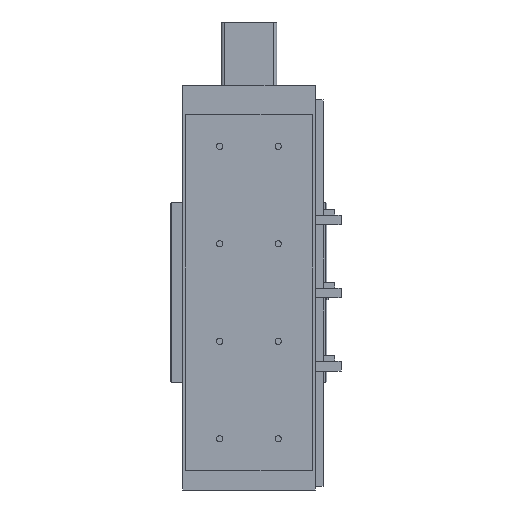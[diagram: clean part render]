
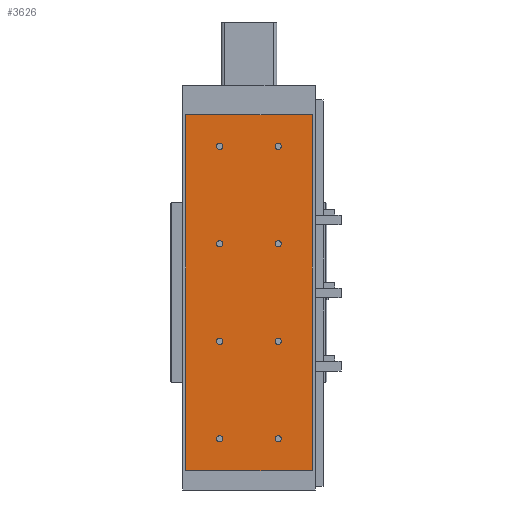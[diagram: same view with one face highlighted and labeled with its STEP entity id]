
A CAD part, front view. The second image highlights one B-rep face of the part: STEP entity #3626.
In plain terms, the highlighted planar face has unit normal (0, -1, 0).
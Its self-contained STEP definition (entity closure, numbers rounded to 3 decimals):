
#2145=CARTESIAN_POINT('',(-33.25,0.0,332.5));
#2146=VERTEX_POINT('',#2145);
#2147=CARTESIAN_POINT('',(-30.,0.0,332.5));
#2148=DIRECTION('',(0.0,1.0,0.0));
#2149=DIRECTION('',(1.0,0.0,0.0));
#2150=AXIS2_PLACEMENT_3D('',#2147,#2148,#2149);
#2151=CIRCLE('',#2150,3.25);
#2152=EDGE_CURVE('',#2146,#2146,#2151,.T.);
#2324=CARTESIAN_POINT('',(26.75,0.0,332.5));
#2325=VERTEX_POINT('',#2324);
#2326=CARTESIAN_POINT('',(30.,0.0,332.5));
#2327=DIRECTION('',(0.0,1.0,0.0));
#2328=DIRECTION('',(1.0,0.0,0.0));
#2329=AXIS2_PLACEMENT_3D('',#2326,#2327,#2328);
#2330=CIRCLE('',#2329,3.25);
#2331=EDGE_CURVE('',#2325,#2325,#2330,.T.);
#2365=CARTESIAN_POINT('',(-33.25,0.0,132.5));
#2366=VERTEX_POINT('',#2365);
#2367=CARTESIAN_POINT('',(-30.,0.0,132.5));
#2368=DIRECTION('',(0.0,1.0,0.0));
#2369=DIRECTION('',(1.0,0.0,0.0));
#2370=AXIS2_PLACEMENT_3D('',#2367,#2368,#2369);
#2371=CIRCLE('',#2370,3.25);
#2372=EDGE_CURVE('',#2366,#2366,#2371,.T.);
#2544=CARTESIAN_POINT('',(26.75,0.0,132.5));
#2545=VERTEX_POINT('',#2544);
#2546=CARTESIAN_POINT('',(30.,0.0,132.5));
#2547=DIRECTION('',(0.0,1.0,0.0));
#2548=DIRECTION('',(1.0,0.0,0.0));
#2549=AXIS2_PLACEMENT_3D('',#2546,#2547,#2548);
#2550=CIRCLE('',#2549,3.25);
#2551=EDGE_CURVE('',#2545,#2545,#2550,.T.);
#2585=CARTESIAN_POINT('',(-33.25,0.0,32.5));
#2586=VERTEX_POINT('',#2585);
#2587=CARTESIAN_POINT('',(-30.,0.0,32.5));
#2588=DIRECTION('',(0.0,1.0,0.0));
#2589=DIRECTION('',(1.0,0.0,0.0));
#2590=AXIS2_PLACEMENT_3D('',#2587,#2588,#2589);
#2591=CIRCLE('',#2590,3.25);
#2592=EDGE_CURVE('',#2586,#2586,#2591,.T.);
#2764=CARTESIAN_POINT('',(26.75,0.0,32.5));
#2765=VERTEX_POINT('',#2764);
#2766=CARTESIAN_POINT('',(30.,0.0,32.5));
#2767=DIRECTION('',(0.0,1.0,0.0));
#2768=DIRECTION('',(1.0,0.0,0.0));
#2769=AXIS2_PLACEMENT_3D('',#2766,#2767,#2768);
#2770=CIRCLE('',#2769,3.25);
#2771=EDGE_CURVE('',#2765,#2765,#2770,.T.);
#2874=CARTESIAN_POINT('',(26.75,0.0,232.5));
#2875=VERTEX_POINT('',#2874);
#2876=CARTESIAN_POINT('',(30.,0.0,232.5));
#2877=DIRECTION('',(0.0,1.0,0.0));
#2878=DIRECTION('',(1.0,0.0,0.0));
#2879=AXIS2_PLACEMENT_3D('',#2876,#2877,#2878);
#2880=CIRCLE('',#2879,3.25);
#2881=EDGE_CURVE('',#2875,#2875,#2880,.T.);
#2984=CARTESIAN_POINT('',(-33.25,0.0,232.5));
#2985=VERTEX_POINT('',#2984);
#2986=CARTESIAN_POINT('',(-30.,0.0,232.5));
#2987=DIRECTION('',(0.0,1.0,0.0));
#2988=DIRECTION('',(1.0,0.0,0.0));
#2989=AXIS2_PLACEMENT_3D('',#2986,#2987,#2988);
#2990=CIRCLE('',#2989,3.25);
#2991=EDGE_CURVE('',#2985,#2985,#2990,.T.);
#3318=CARTESIAN_POINT('',(65.0,0.0,0.0));
#3319=VERTEX_POINT('',#3318);
#3326=CARTESIAN_POINT('',(-65.0,0.0,0.0));
#3327=VERTEX_POINT('',#3326);
#3328=CARTESIAN_POINT('',(-65.0,0.0,0.0));
#3329=DIRECTION('',(1.0,0.0,0.0));
#3330=VECTOR('',#3329,130.0);
#3331=LINE('',#3328,#3330);
#3332=EDGE_CURVE('',#3327,#3319,#3331,.T.);
#3522=CARTESIAN_POINT('',(-65.0,0.0,365.0));
#3523=VERTEX_POINT('',#3522);
#3530=CARTESIAN_POINT('',(65.0,0.0,365.0));
#3531=VERTEX_POINT('',#3530);
#3532=CARTESIAN_POINT('',(65.0,0.0,365.0));
#3533=DIRECTION('',(-1.0,0.0,0.0));
#3534=VECTOR('',#3533,130.0);
#3535=LINE('',#3532,#3534);
#3536=EDGE_CURVE('',#3531,#3523,#3535,.T.);
#3559=CARTESIAN_POINT('',(-65.0,0.0,0.0));
#3560=DIRECTION('',(0.0,0.0,1.0));
#3561=VECTOR('',#3560,365.0);
#3562=LINE('',#3559,#3561);
#3563=EDGE_CURVE('',#3327,#3523,#3562,.T.);
#3581=CARTESIAN_POINT('',(65.0,0.0,0.0));
#3582=DIRECTION('',(0.0,0.0,1.0));
#3583=VECTOR('',#3582,365.0);
#3584=LINE('',#3581,#3583);
#3585=EDGE_CURVE('',#3319,#3531,#3584,.T.);
#3591=CARTESIAN_POINT('',(65.0,0.0,0.0));
#3592=DIRECTION('',(0.0,-1.0,0.0));
#3593=DIRECTION('',(0.0,0.0,-1.0));
#3594=AXIS2_PLACEMENT_3D('',#3591,#3592,#3593);
#3595=PLANE('',#3594);
#3596=ORIENTED_EDGE('',*,*,#3536,.T.);
#3597=ORIENTED_EDGE('',*,*,#3563,.F.);
#3598=ORIENTED_EDGE('',*,*,#3332,.T.);
#3599=ORIENTED_EDGE('',*,*,#3585,.T.);
#3600=EDGE_LOOP('',(#3596,#3597,#3598,#3599));
#3601=FACE_OUTER_BOUND('',#3600,.T.);
#3602=ORIENTED_EDGE('',*,*,#2152,.T.);
#3603=EDGE_LOOP('',(#3602));
#3604=FACE_BOUND('',#3603,.T.);
#3605=ORIENTED_EDGE('',*,*,#2331,.T.);
#3606=EDGE_LOOP('',(#3605));
#3607=FACE_BOUND('',#3606,.T.);
#3608=ORIENTED_EDGE('',*,*,#2372,.T.);
#3609=EDGE_LOOP('',(#3608));
#3610=FACE_BOUND('',#3609,.T.);
#3611=ORIENTED_EDGE('',*,*,#2551,.T.);
#3612=EDGE_LOOP('',(#3611));
#3613=FACE_BOUND('',#3612,.T.);
#3614=ORIENTED_EDGE('',*,*,#2592,.T.);
#3615=EDGE_LOOP('',(#3614));
#3616=FACE_BOUND('',#3615,.T.);
#3617=ORIENTED_EDGE('',*,*,#2771,.T.);
#3618=EDGE_LOOP('',(#3617));
#3619=FACE_BOUND('',#3618,.T.);
#3620=ORIENTED_EDGE('',*,*,#2881,.T.);
#3621=EDGE_LOOP('',(#3620));
#3622=FACE_BOUND('',#3621,.T.);
#3623=ORIENTED_EDGE('',*,*,#2991,.T.);
#3624=EDGE_LOOP('',(#3623));
#3625=FACE_BOUND('',#3624,.T.);
#3626=ADVANCED_FACE('',(#3601,#3604,#3607,#3610,#3613,#3616,#3619,#3622,#3625),#3595,.T.);
